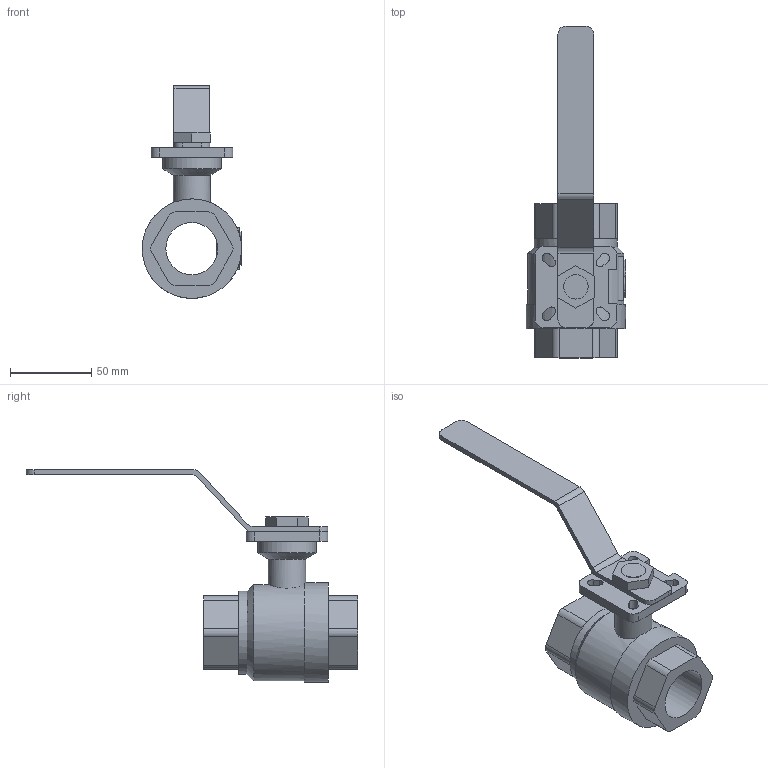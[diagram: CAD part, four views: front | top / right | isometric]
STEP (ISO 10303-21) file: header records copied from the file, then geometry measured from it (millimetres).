
FILE_DESCRIPTION(('STEP AP203'), '1');
FILE_NAME('3D_7015-032-63_1', '', ('UNSPECIFIED'), ('UNSPECIFIED'), 'C3D Converter', 'C3D Toolkit', '');
FILE_SCHEMA(('CONFIG_CONTROL_DESIGN'));
Length unit declared in the file: millimetre
Bounding box: 61.12 x 203.5 x 130.48 mm (x, y, z)
Volume: 196554.7 mm3; surface area: 49915.2 mm2
Topology: 11 solids, 11 shells, 937 faces, 2733 edges, 1823 vertices
Faces by surface type: plane 896, cylinder 39, cone 2
Full cylindrical faces by diameter (mm): 15 x1, 23 x1, 32 x1, 36 x1, 51 x1, 59 x1, 61 x1
Entity records: 38333 total; most frequent: CARTESIAN_POINT 5814, ORIENTED_EDGE 5448, DIRECTION 4687, EDGE_CURVE 2724, LINE 2629, VECTOR 2629, VERTEX_POINT 1823, AXIS2_PLACEMENT_3D 1029
